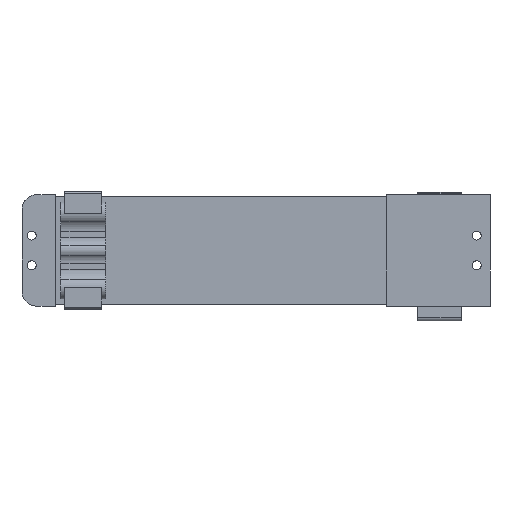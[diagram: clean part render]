
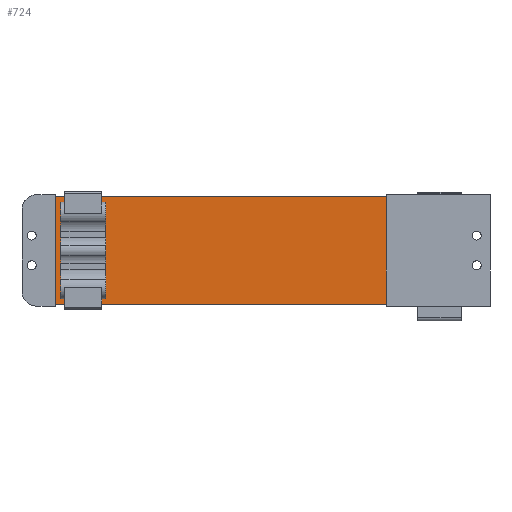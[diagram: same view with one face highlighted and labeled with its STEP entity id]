
A CAD part, front view. The second image highlights one B-rep face of the part: STEP entity #724.
In plain terms, the highlighted planar face has unit normal (0, -1, 0).
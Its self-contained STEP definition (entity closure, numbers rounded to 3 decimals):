
#724 = ADVANCED_FACE( '', ( #1426 ), #1427, .F. );
#1426 = FACE_OUTER_BOUND( '', #2092, .T. );
#1427 = PLANE( '', #2093 );
#2092 = EDGE_LOOP( '', ( #3984, #3985, #3986, #3987 ) );
#2093 = AXIS2_PLACEMENT_3D( '', #3988, #3989, #3990 );
#3984 = ORIENTED_EDGE( '', *, *, #4663, .T. );
#3985 = ORIENTED_EDGE( '', *, *, #4406, .F. );
#3986 = ORIENTED_EDGE( '', *, *, #4544, .F. );
#3987 = ORIENTED_EDGE( '', *, *, #4740, .T. );
#3988 = CARTESIAN_POINT( '', ( 454.25, 11.8, 73. ) );
#3989 = DIRECTION( '', ( 0., 1., 0. ) );
#3990 = DIRECTION( '', ( 0., 0., 1. ) );
#4406 = EDGE_CURVE( '', #5425, #5423, #5427, .T. );
#4544 = EDGE_CURVE( '', #5627, #5425, #5629, .T. );
#4663 = EDGE_CURVE( '', #5778, #5423, #5779, .T. );
#4740 = EDGE_CURVE( '', #5627, #5778, #5862, .T. );
#5423 = VERTEX_POINT( '', #7055 );
#5425 = VERTEX_POINT( '', #7058 );
#5427 = LINE( '', #7061, #7062 );
#5627 = VERTEX_POINT( '', #7536 );
#5629 = LINE( '', #7539, #7540 );
#5778 = VERTEX_POINT( '', #7769 );
#5779 = LINE( '', #7770, #7771 );
#5862 = LINE( '', #7892, #7893 );
#7055 = CARTESIAN_POINT( '', ( 0., 11.8, -73. ) );
#7058 = CARTESIAN_POINT( '', ( 454.25, 11.8, -73. ) );
#7061 = CARTESIAN_POINT( '', ( 454.25, 11.8, -73. ) );
#7062 = VECTOR( '', #8459, 1000. );
#7536 = CARTESIAN_POINT( '', ( 454.25, 11.8, 73. ) );
#7539 = CARTESIAN_POINT( '', ( 454.25, 11.8, 73. ) );
#7540 = VECTOR( '', #8628, 1000. );
#7769 = CARTESIAN_POINT( '', ( 0., 11.8, 73. ) );
#7770 = CARTESIAN_POINT( '', ( 0., 11.8, 73. ) );
#7771 = VECTOR( '', #8767, 1000. );
#7892 = CARTESIAN_POINT( '', ( 454.25, 11.8, 73. ) );
#7893 = VECTOR( '', #8819, 1000. );
#8459 = DIRECTION( '', ( -1., 0., 0. ) );
#8628 = DIRECTION( '', ( 0., 0., -1. ) );
#8767 = DIRECTION( '', ( 0., 0., -1. ) );
#8819 = DIRECTION( '', ( -1., 0., 0. ) );
